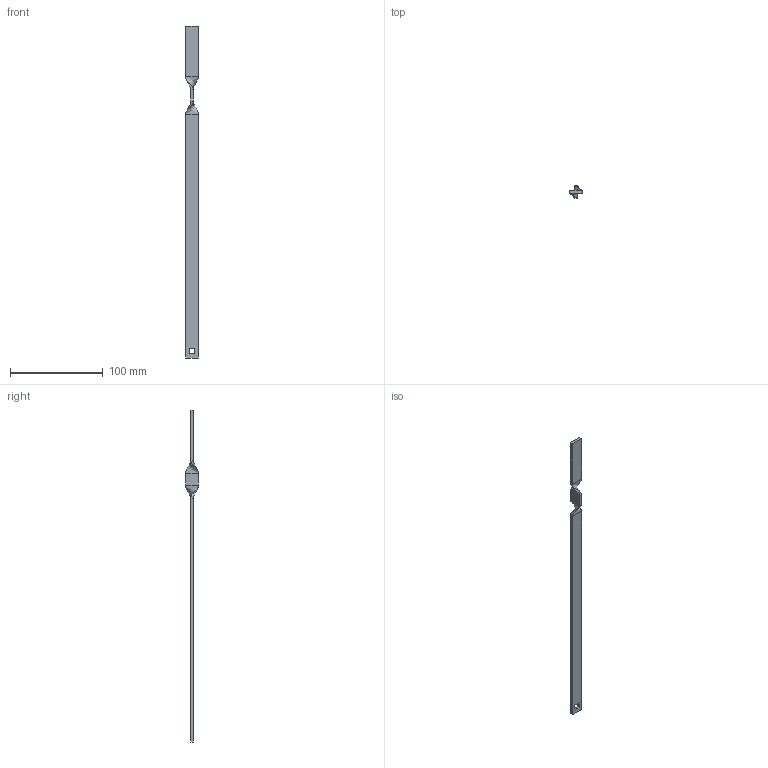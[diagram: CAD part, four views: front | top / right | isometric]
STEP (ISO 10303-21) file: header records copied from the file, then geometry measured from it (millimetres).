
FILE_DESCRIPTION (( 'STEP AP214' ), '1' );
FILE_NAME ('PK190-351.STEP', '2016-08-18T09:39:13', ( 'RST-Dolba' ), ( '' ), 'SwSTEP 2.0', 'SolidWorks 2015', '' );
FILE_SCHEMA (( 'AUTOMOTIVE_DESIGN' ));
Length unit declared in the file: millimetre
Products named in the file (1): PK190-351
Bounding box: 14 x 14 x 358.5 mm (x, y, z)
Volume: 14625.9 mm3; surface area: 12181.2 mm2
Topology: 1 solids, 1 shells, 26 faces, 56 edges, 32 vertices
Faces by surface type: plane 18, bspline 8
Entity records: 846 total; most frequent: CARTESIAN_POINT 291, ORIENTED_EDGE 112, DIRECTION 86, EDGE_CURVE 56, VECTOR 48, LINE 48, VERTEX_POINT 32, EDGE_LOOP 28
